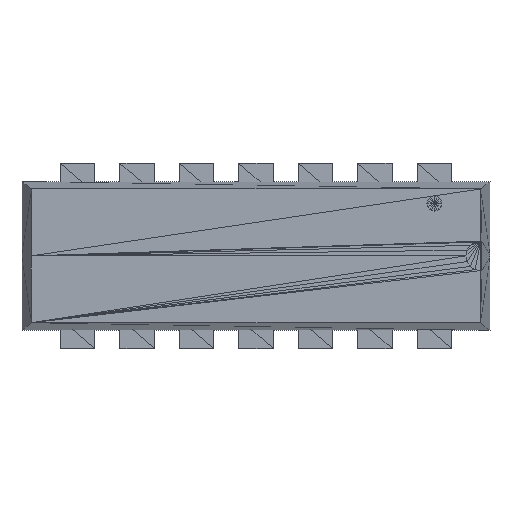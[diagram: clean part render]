
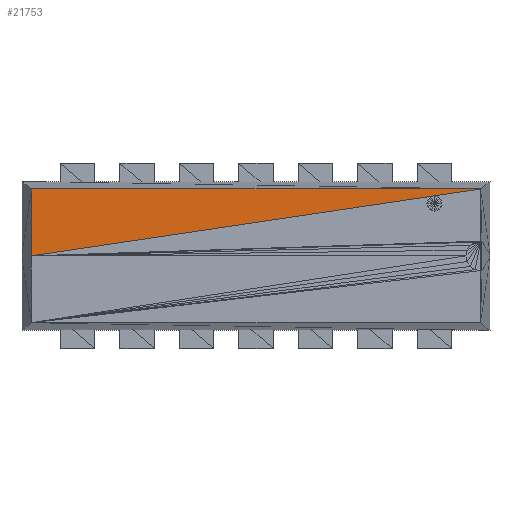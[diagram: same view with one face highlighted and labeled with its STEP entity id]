
A CAD part, top view. The second image highlights one B-rep face of the part: STEP entity #21753.
In plain terms, the highlighted planar face has unit normal (0, 0, 1).
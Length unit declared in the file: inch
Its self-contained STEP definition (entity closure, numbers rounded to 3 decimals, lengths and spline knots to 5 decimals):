
#20966=CARTESIAN_POINT('',(-0.37826,-0.00003,0.175));
#20967=VERTEX_POINT('',#20966);
#20988=CARTESIAN_POINT('',(-0.37761,0.11247,0.17502));
#20989=VERTEX_POINT('',#20988);
#20997=CARTESIAN_POINT('',(-0.37826,-0.00003,0.175));
#20998=DIRECTION('',(0.006,1.,0.));
#20999=VECTOR('',#20998,0.1125);
#21000=LINE('',#20997,#20999);
#21001=EDGE_CURVE('',#20967,#20989,#21000,.T.);
#21122=CARTESIAN_POINT('',(0.37761,0.11247,0.17502));
#21123=VERTEX_POINT('',#21122);
#21124=CARTESIAN_POINT('',(-0.37761,0.11247,0.17502));
#21125=DIRECTION('',(1.,0.,-0.));
#21126=VECTOR('',#21125,0.75522);
#21127=LINE('',#21124,#21126);
#21128=EDGE_CURVE('',#20989,#21123,#21127,.T.);
#21734=CARTESIAN_POINT('',(-0.37826,-0.00003,0.175));
#21735=DIRECTION('',(0.989,0.147,0.));
#21736=VECTOR('',#21735,0.7642);
#21737=LINE('',#21734,#21736);
#21738=EDGE_CURVE('',#20967,#21123,#21737,.T.);
#21743=CARTESIAN_POINT('',(-0.37826,-0.00003,0.175));
#21744=DIRECTION('',(0.,0.,1.));
#21745=DIRECTION('',(1.,0.,0.));
#21746=AXIS2_PLACEMENT_3D('',#21743,#21744,#21745);
#21747=PLANE('',#21746);
#21748=ORIENTED_EDGE('',*,*,#21738,.T.);
#21749=ORIENTED_EDGE('',*,*,#21128,.F.);
#21750=ORIENTED_EDGE('',*,*,#21001,.F.);
#21751=EDGE_LOOP('',(#21748,#21749,#21750));
#21752=FACE_BOUND('',#21751,.T.);
#21753=ADVANCED_FACE('',(#21752),#21747,.T.);
